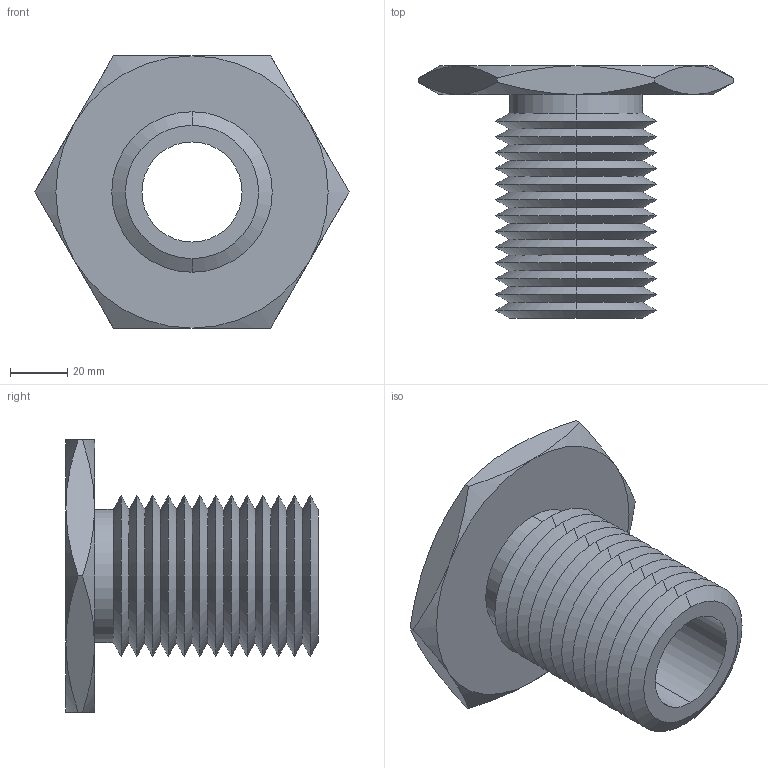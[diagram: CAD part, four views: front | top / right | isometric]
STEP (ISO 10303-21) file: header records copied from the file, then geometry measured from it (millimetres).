
FILE_DESCRIPTION (( 'STEP AP203' ), '1' );
FILE_NAME ('63302.W0056_1,37 UNC-6.step', '2013-12-08T11:24:21', ( 'User' ), ( '' ), 'SwSTEP 2.0', 'SolidWorks 2009', '' );
FILE_SCHEMA (( 'CONFIG_CONTROL_DESIGN' ));
Length unit declared in the file: millimetre
Products named in the file (1): 63302.W0056_1,37 UNC-6
Bounding box: 109.7 x 88 x 95 mm (x, y, z)
Volume: 149682.3 mm3; surface area: 49651.7 mm2
Topology: 1 solids, 1 shells, 79 faces, 162 edges, 86 vertices
Faces by surface type: cone 66, plane 9, cylinder 4
Entity records: 2271 total; most frequent: CARTESIAN_POINT 544, DIRECTION 372, ORIENTED_EDGE 324, EDGE_CURVE 162, AXIS2_PLACEMENT_3D 154, VERTEX_POINT 86, EDGE_LOOP 82, ADVANCED_FACE 79
